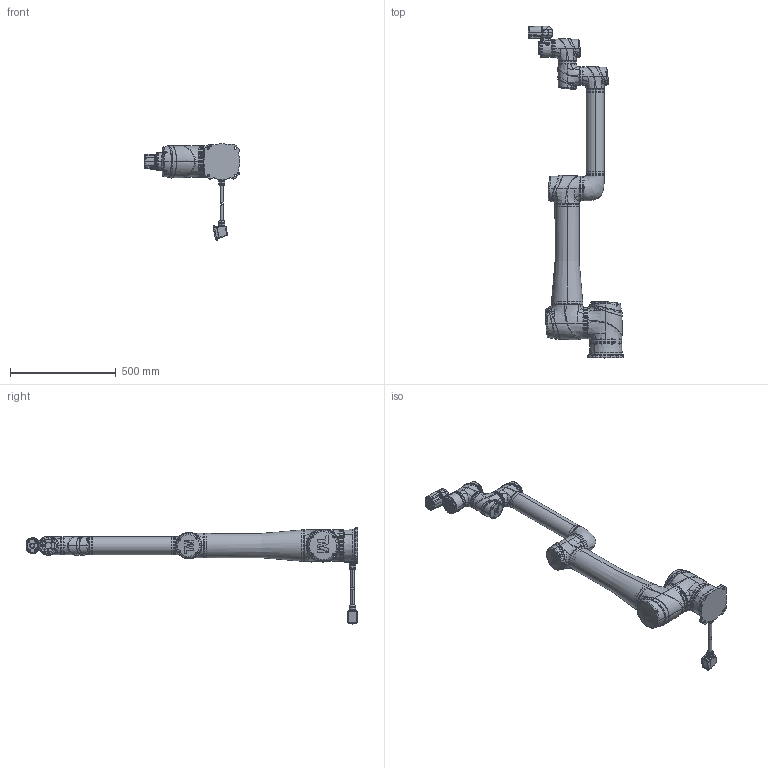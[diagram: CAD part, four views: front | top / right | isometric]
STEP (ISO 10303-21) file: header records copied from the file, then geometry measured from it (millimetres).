
FILE_DESCRIPTION((''),'2;1');
FILE_NAME('TM12S-A_ASM','2024-07-10T',('sean.lour'),(''),'CREO PARAMETRIC BY PTC INC, 2015290','CREO PARAMETRIC BY PTC INC, 2015290','');
FILE_SCHEMA(('AUTOMOTIVE_DESIGN { 1 0 10303 214 1 1 1 1 }'));
Products named in the file (39): TBB; AB; AW; ALN; ACG_ASM; CA; CTA; COA_ASM; TBB-A_ASM; J8H; J8C; J8D; J8R; J8F; S3W; J8-A_ASM; T12SA1; J5H; J5C; J5R; J5D; J5F; J5-A_ASM; T12SA1-A_ASM; J5LO; TJL; T12SA2; J2H; J2C; J2R; J2D; J2F; J2-A_ASM; T12SA2-R; T12SA2-A_ASM; J2LO; IO; CAP; TM12S-A_ASM
Assembly tree (52 placements, depth 4):
  TM12S-A_ASM
    TBB-A_ASM
      TBB
      ACG_ASM
        AB
        AW
        ALN
      COA_ASM
        CA
        CTA
    J8-A_ASM
      J8H
      J8C
      J8D
      J8R
      J8F
      S3W  x4
    T12SA1-A_ASM
      J8-A_ASM
        J8H
        J8C
        J8D
        J8R
        J8F
        S3W  x4
      T12SA1
      J5-A_ASM
        J5H
        J5C
        J5R
        J5D
        J5F
        S3W  x4
    J5LO
    T12SA2-A_ASM
      TJL
      T12SA2
      J2-A_ASM
        J2H
        J2C
        J2R
        J2D
        J2F
        S3W  x4
      T12SA2-R
    J2LO
    J2-A_ASM  x2
      J2H
      J2C
      J2R
      J2D
      J2F
      S3W
    IO
    CAP
Bounding box: 452.77 x 1570.56 x 458.38 mm (x, y, z)
Volume: 17673425.7 mm3; surface area: 1813714.6 mm2
Topology: 74 solids, 80 shells, 3957 faces, 9232 edges, 5679 vertices
Faces by surface type: bspline 1454, cylinder 1018, plane 882, torus 298, cone 231, extrusion 31, revolution 25, sphere 18
Entity records: 191132 total; most frequent: CARTESIAN_POINT 117045, ORIENTED_EDGE 12090, DIRECTION 8522, EDGE_CURVE 6045, PRESENTATION_STYLE_ASSIGNMENT 4669, STYLED_ITEM 4659, VERTEX_POINT 3707, AXIS2_PLACEMENT_3D 3502
